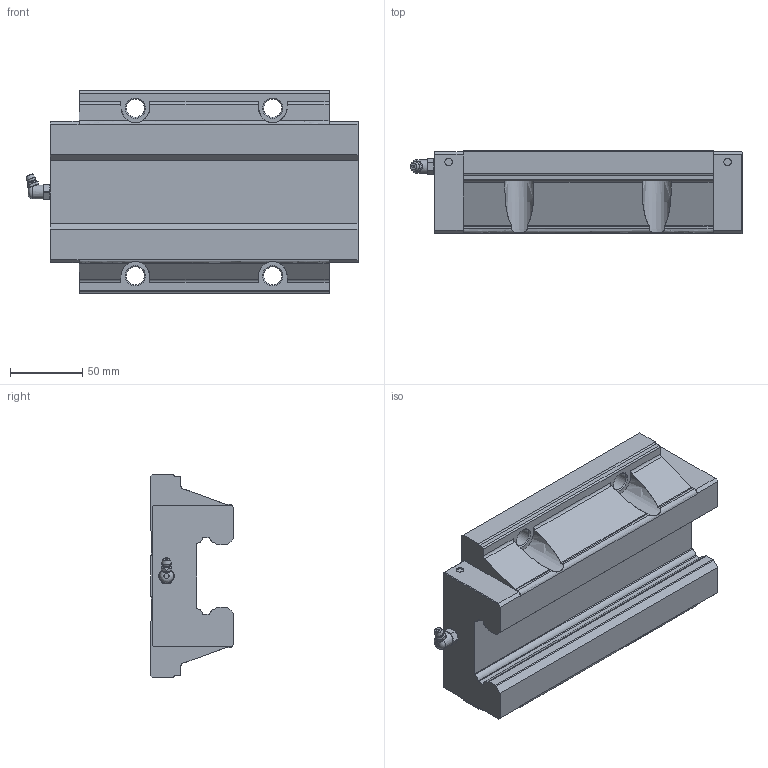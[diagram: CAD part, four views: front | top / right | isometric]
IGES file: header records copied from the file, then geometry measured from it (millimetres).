
Start section: Data from Parasolid IGES Translator 26.0.171, Copyright(c) 2006 Siemens PLM Software. All Rights Reserved.
Global section: file name: SHS55LC1SS(GK) BLOCK(B-PT1_81).igs; native system: By Siemens PLM Incorporated; preprocessor: XPlus GENERIC/IGES 26.0.171; author: Noname; organization: Noname; date: 20240514.043639; units: millimetre
Bounding box: 229.7 x 57.3 x 140 mm (x, y, z)
Surface area: 104812.8 mm2 (no closed solid volume)
Topology: 0 solids, 0 shells, 175 faces, 947 edges, 918 vertices
Faces by surface type: extrusion 99, revolution 76
